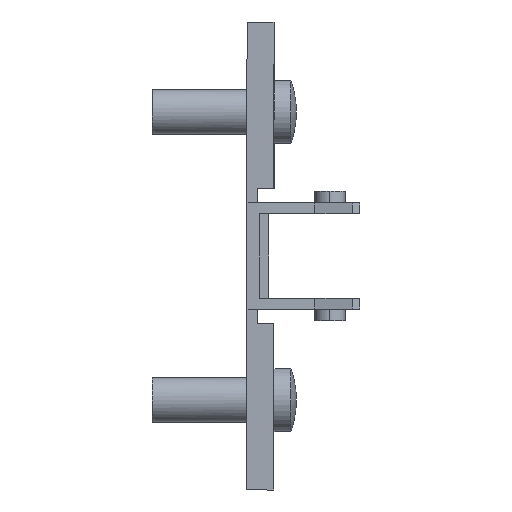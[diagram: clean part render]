
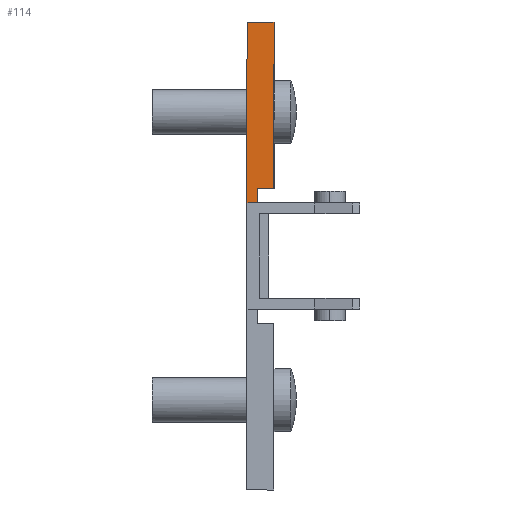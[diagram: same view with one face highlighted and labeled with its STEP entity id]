
A CAD part, front view. The second image highlights one B-rep face of the part: STEP entity #114.
In plain terms, the highlighted planar face has unit normal (0, -1, 0).
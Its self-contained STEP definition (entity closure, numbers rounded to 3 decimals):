
#114 = ADVANCED_FACE ( 'NONE', ( #2330 ), #381, .F. ) ;
#381 = PLANE ( 'NONE',  #2641 ) ;
#384 = CARTESIAN_POINT ( 'NONE',  ( 0., -9., 5. ) ) ;
#390 = DIRECTION ( 'NONE',  ( 0., 1., 0. ) ) ;
#391 = DIRECTION ( 'NONE',  ( 0., 0., 1. ) ) ;
#456 = CARTESIAN_POINT ( 'NONE',  ( 0., -9., 5. ) ) ;
#461 = DIRECTION ( 'NONE',  ( 0., 0., 1. ) ) ;
#492 = CARTESIAN_POINT ( 'NONE',  ( 3., -9., 26. ) ) ;
#497 = DIRECTION ( 'NONE',  ( 0., 0., -1. ) ) ;
#509 = CARTESIAN_POINT ( 'NONE',  ( 0., -9., 5.9 ) ) ;
#510 = DIRECTION ( 'NONE',  ( -1., 0., 0. ) ) ;
#532 = CARTESIAN_POINT ( 'NONE',  ( 0., -9., 26. ) ) ;
#537 = DIRECTION ( 'NONE',  ( 1., 0., 0. ) ) ;
#676 = CARTESIAN_POINT ( 'NONE',  ( 3., -9., 7.5 ) ) ;
#677 = DIRECTION ( 'NONE',  ( -1., 0., 0. ) ) ;
#1027 = CARTESIAN_POINT ( 'NONE',  ( 1.2, -9., 7.5 ) ) ;
#1028 = DIRECTION ( 'NONE',  ( 0., 0., -1. ) ) ;
#1113 = CARTESIAN_POINT ( 'NONE',  ( 1.2, -9., 5.9 ) ) ;
#1130 = CARTESIAN_POINT ( 'NONE',  ( 0., -9., 26. ) ) ;
#1136 = CARTESIAN_POINT ( 'NONE',  ( 0., -9., 5.9 ) ) ;
#1210 = CARTESIAN_POINT ( 'NONE',  ( 3., -9., 26. ) ) ;
#1211 = CARTESIAN_POINT ( 'NONE',  ( 3., -9., 7.5 ) ) ;
#1283 = CARTESIAN_POINT ( 'NONE',  ( 1.2, -9., 7.5 ) ) ;
#1540 = EDGE_LOOP ( 'NONE', ( #2013, #2050, #2052, #2130, #2165, #2163 ) ) ;
#2013 = ORIENTED_EDGE ( 'NONE', *, *, #2529, .F. ) ;
#2050 = ORIENTED_EDGE ( 'NONE', *, *, #2564, .F. ) ;
#2052 = ORIENTED_EDGE ( 'NONE', *, *, #2936, .F. ) ;
#2130 = ORIENTED_EDGE ( 'NONE', *, *, #2706, .F. ) ;
#2163 = ORIENTED_EDGE ( 'NONE', *, *, #2585, .F. ) ;
#2165 = ORIENTED_EDGE ( 'NONE', *, *, #2554, .F. ) ;
#2262 = VECTOR ( 'NONE', #1028, 1000. ) ;
#2263 = LINE ( 'NONE', #1027, #2262 ) ;
#2276 = VECTOR ( 'NONE', #461, 1000. ) ;
#2284 = LINE ( 'NONE', #456, #2276 ) ;
#2330 = FACE_OUTER_BOUND ( 'NONE', #1540, .T. ) ;
#2529 = EDGE_CURVE ( 'NONE', #3277, #3271, #2284, .T. ) ;
#2554 = EDGE_CURVE ( 'NONE', #3351, #3352, #3036, .T. ) ;
#2564 = EDGE_CURVE ( 'NONE', #3254, #3277, #3019, .T. ) ;
#2585 = EDGE_CURVE ( 'NONE', #3271, #3351, #3001, .T. ) ;
#2641 = AXIS2_PLACEMENT_3D ( 'NONE', #384, #390, #391 ) ;
#2706 = EDGE_CURVE ( 'NONE', #3352, #3429, #3437, .T. ) ;
#2936 = EDGE_CURVE ( 'NONE', #3429, #3254, #2263, .T. ) ;
#3001 = LINE ( 'NONE', #532, #3502 ) ;
#3018 = VECTOR ( 'NONE', #510, 1000. ) ;
#3019 = LINE ( 'NONE', #509, #3018 ) ;
#3031 = VECTOR ( 'NONE', #497, 1000. ) ;
#3036 = LINE ( 'NONE', #492, #3031 ) ;
#3254 = VERTEX_POINT ( 'NONE', #1113 ) ;
#3271 = VERTEX_POINT ( 'NONE', #1130 ) ;
#3277 = VERTEX_POINT ( 'NONE', #1136 ) ;
#3351 = VERTEX_POINT ( 'NONE', #1210 ) ;
#3352 = VERTEX_POINT ( 'NONE', #1211 ) ;
#3429 = VERTEX_POINT ( 'NONE', #1283 ) ;
#3436 = VECTOR ( 'NONE', #677, 1000. ) ;
#3437 = LINE ( 'NONE', #676, #3436 ) ;
#3502 = VECTOR ( 'NONE', #537, 1000. ) ;
